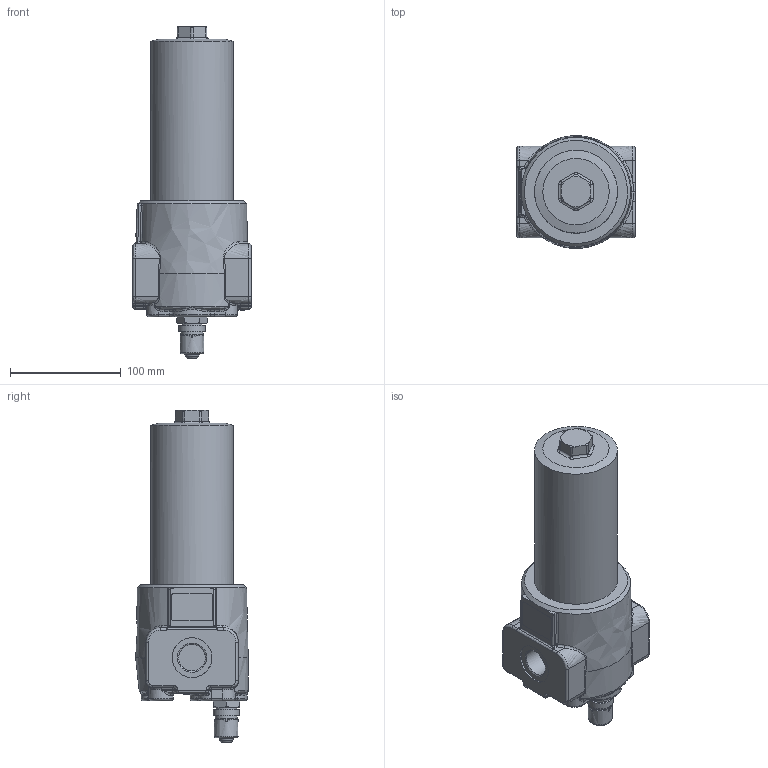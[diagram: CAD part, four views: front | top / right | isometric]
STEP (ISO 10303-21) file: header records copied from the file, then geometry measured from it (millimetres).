
FILE_DESCRIPTION((''),'2;1');
FILE_NAME('U:\Users\i.maeder\34150100_HD152-166OD1_exp.stp', '2016-07-08T14:18:40',('User'),('SDRC'),'I-DEAS Master Series 9','UNIX', 'Yes');
FILE_SCHEMA(('AUTOMOTIVE_DESIGN { 1 0 10303 214 1 1 1 1 }'));
Length unit declared in the file: millimetre
Products named in the file (1): 34150100
Bounding box: 107 x 101.89 x 300.3 mm (x, y, z)
Volume: 1542160.1 mm3; surface area: 95887.9 mm2
Topology: 1 solids, 1 shells, 403 faces, 955 edges, 560 vertices
Faces by surface type: bspline 403
Entity records: 15213 total; most frequent: CARTESIAN_POINT 9891, ORIENTED_EDGE 1886, EDGE_CURVE 943, VERTEX_POINT 560, B_SPLINE_CURVE_WITH_KNOTS 439, EDGE_LOOP 421, FACE_OUTER_BOUND 403, ADVANCED_FACE 403
